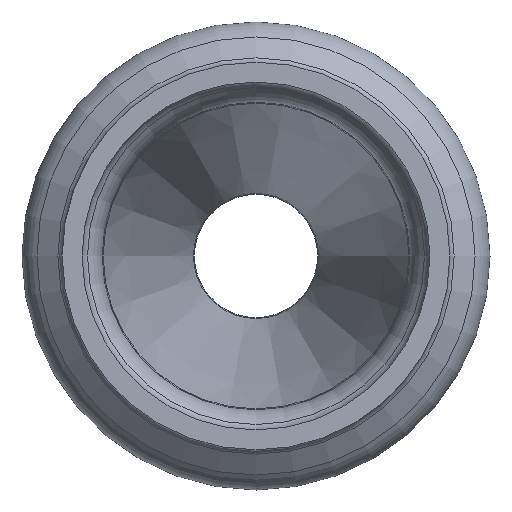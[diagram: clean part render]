
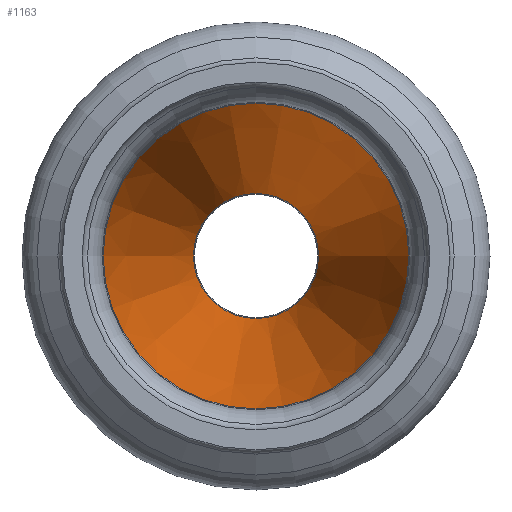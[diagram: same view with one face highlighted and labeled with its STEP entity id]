
A CAD part, left-side view. The second image highlights one B-rep face of the part: STEP entity #1163.
In plain terms, the highlighted conical face has half-angle 13.575 degrees and reference radius 14.941 mm.
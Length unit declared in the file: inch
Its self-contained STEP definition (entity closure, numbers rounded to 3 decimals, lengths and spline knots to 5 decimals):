
#76=LINE('',#2154,#98);
#98=VECTOR('',#1741,0.58823);
#112=CONICAL_SURFACE('',#1349,0.58823,0.237);
#149=FACE_OUTER_BOUND('',#198,.T.);
#198=EDGE_LOOP('',(#951,#952,#953,#954,#955,#956,#957,#958));
#327=CIRCLE('',#1345,0.34155);
#328=CIRCLE('',#1346,0.34155);
#329=CIRCLE('',#1347,0.34155);
#331=CIRCLE('',#1350,0.83491);
#332=CIRCLE('',#1351,0.83491);
#333=CIRCLE('',#1352,0.83491);
#470=VERTEX_POINT('',#2145);
#471=VERTEX_POINT('',#2146);
#472=VERTEX_POINT('',#2148);
#473=VERTEX_POINT('',#2153);
#474=VERTEX_POINT('',#2155);
#475=VERTEX_POINT('',#2157);
#638=EDGE_CURVE('',#470,#471,#327,.T.);
#639=EDGE_CURVE('',#472,#470,#328,.T.);
#640=EDGE_CURVE('',#471,#472,#329,.T.);
#642=EDGE_CURVE('',#472,#473,#76,.T.);
#643=EDGE_CURVE('',#474,#473,#331,.T.);
#644=EDGE_CURVE('',#475,#474,#332,.T.);
#645=EDGE_CURVE('',#473,#475,#333,.T.);
#951=ORIENTED_EDGE('',*,*,#638,.T.);
#952=ORIENTED_EDGE('',*,*,#640,.T.);
#953=ORIENTED_EDGE('',*,*,#642,.T.);
#954=ORIENTED_EDGE('',*,*,#643,.F.);
#955=ORIENTED_EDGE('',*,*,#644,.F.);
#956=ORIENTED_EDGE('',*,*,#645,.F.);
#957=ORIENTED_EDGE('',*,*,#642,.F.);
#958=ORIENTED_EDGE('',*,*,#639,.T.);
#1163=ADVANCED_FACE('',(#149),#112,.F.);
#1345=AXIS2_PLACEMENT_3D('',#2147,#1731,#1732);
#1346=AXIS2_PLACEMENT_3D('',#2149,#1733,#1734);
#1347=AXIS2_PLACEMENT_3D('',#2150,#1735,#1736);
#1349=AXIS2_PLACEMENT_3D('',#2152,#1739,#1740);
#1350=AXIS2_PLACEMENT_3D('',#2156,#1742,#1743);
#1351=AXIS2_PLACEMENT_3D('',#2158,#1744,#1745);
#1352=AXIS2_PLACEMENT_3D('',#2159,#1746,#1747);
#1731=DIRECTION('center_axis',(1.,0.,0.));
#1732=DIRECTION('ref_axis',(0.,1.,0.));
#1733=DIRECTION('center_axis',(1.,0.,0.));
#1734=DIRECTION('ref_axis',(0.,1.,0.));
#1735=DIRECTION('center_axis',(1.,0.,0.));
#1736=DIRECTION('ref_axis',(0.,1.,0.));
#1739=DIRECTION('center_axis',(-1.,0.,0.));
#1740=DIRECTION('ref_axis',(0.,1.,0.));
#1741=DIRECTION('',(-0.972,-0.235,0.));
#1742=DIRECTION('center_axis',(1.,0.,0.));
#1743=DIRECTION('ref_axis',(0.,1.,0.));
#1744=DIRECTION('center_axis',(1.,0.,0.));
#1745=DIRECTION('ref_axis',(0.,1.,0.));
#1746=DIRECTION('center_axis',(1.,0.,0.));
#1747=DIRECTION('ref_axis',(0.,1.,0.));
#2145=CARTESIAN_POINT('',(1.05302,0.34155,0.));
#2146=CARTESIAN_POINT('',(1.05302,0.,0.34155));
#2147=CARTESIAN_POINT('Origin',(1.05302,0.,
0.));
#2148=CARTESIAN_POINT('',(1.05302,-0.34155,0.));
#2149=CARTESIAN_POINT('Origin',(1.05302,0.,
0.));
#2150=CARTESIAN_POINT('Origin',(1.05302,0.,
0.));
#2152=CARTESIAN_POINT('Origin',(0.03142,0.,
0.));
#2153=CARTESIAN_POINT('',(-0.99018,-0.83491,0.));
#2154=CARTESIAN_POINT('',(0.03142,-0.58823,0.));
#2155=CARTESIAN_POINT('',(-0.99018,0.,0.83491));
#2156=CARTESIAN_POINT('Origin',(-0.99018,0.,
0.));
#2157=CARTESIAN_POINT('',(-0.99018,0.83491,0.));
#2158=CARTESIAN_POINT('Origin',(-0.99018,0.,
0.));
#2159=CARTESIAN_POINT('Origin',(-0.99018,0.,
0.));
